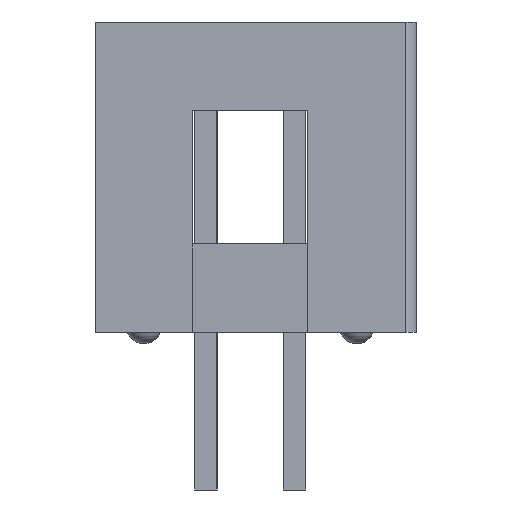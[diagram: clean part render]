
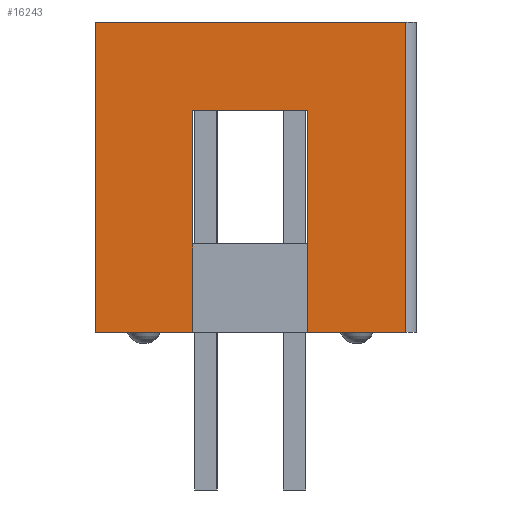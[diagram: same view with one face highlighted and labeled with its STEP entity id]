
A CAD part, left-side view. The second image highlights one B-rep face of the part: STEP entity #16243.
In plain terms, the highlighted planar face has unit normal (-1, 0, 0).
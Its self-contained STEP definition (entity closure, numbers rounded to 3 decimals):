
#147=DIRECTION('',(0.,1.,0.));
#148=VECTOR('',#147,8.89);
#149=CARTESIAN_POINT('',(-44.45,-4.445,0.));
#150=LINE('',#149,#148);
#3517=DIRECTION('',(0.,1.,0.));
#3518=VECTOR('',#3517,2.794);
#3519=CARTESIAN_POINT('',(-44.45,1.651,-8.89));
#3520=LINE('',#3519,#3518);
#3533=DIRECTION('',(0.,1.,0.));
#3534=VECTOR('',#3533,2.794);
#3535=CARTESIAN_POINT('',(-44.45,-4.445,-8.89));
#3536=LINE('',#3535,#3534);
#4993=DIRECTION('',(0.,0.,1.));
#4994=VECTOR('',#4993,6.35);
#4995=CARTESIAN_POINT('',(-44.45,-1.651,-8.89));
#4996=LINE('',#4995,#4994);
#4997=DIRECTION('',(0.,1.,0.));
#4998=VECTOR('',#4997,3.302);
#4999=CARTESIAN_POINT('',(-44.45,-1.651,-2.54));
#5000=LINE('',#4999,#4998);
#5001=DIRECTION('',(0.,0.,1.));
#5002=VECTOR('',#5001,6.35);
#5003=CARTESIAN_POINT('',(-44.45,1.651,-8.89));
#5004=LINE('',#5003,#5002);
#5005=DIRECTION('',(0.,0.,1.));
#5006=VECTOR('',#5005,8.89);
#5007=CARTESIAN_POINT('',(-44.45,4.445,-8.89));
#5008=LINE('',#5007,#5006);
#5017=DIRECTION('',(0.,0.,-1.));
#5018=VECTOR('',#5017,8.89);
#5019=CARTESIAN_POINT('',(-44.45,-4.445,0.));
#5020=LINE('',#5019,#5018);
#7218=CARTESIAN_POINT('',(-44.45,-4.445,0.));
#7219=CARTESIAN_POINT('',(-44.45,4.445,0.));
#7220=VERTEX_POINT('',#7218);
#7221=VERTEX_POINT('',#7219);
#7232=CARTESIAN_POINT('',(-44.45,4.445,-8.89));
#7233=VERTEX_POINT('',#7232);
#7379=CARTESIAN_POINT('',(-44.45,-4.445,-8.89));
#7380=CARTESIAN_POINT('',(-44.45,-1.651,-8.89));
#7381=VERTEX_POINT('',#7379);
#7382=VERTEX_POINT('',#7380);
#7383=CARTESIAN_POINT('',(-44.45,1.651,-8.89));
#7384=VERTEX_POINT('',#7383);
#7421=CARTESIAN_POINT('',(-44.45,-1.651,-2.54));
#7422=CARTESIAN_POINT('',(-44.45,1.651,-2.54));
#7423=VERTEX_POINT('',#7421);
#7424=VERTEX_POINT('',#7422);
#16226=CARTESIAN_POINT('',(-44.45,4.445,0.));
#16227=DIRECTION('',(-1.,0.,0.));
#16228=DIRECTION('',(0.,-1.,0.));
#16229=AXIS2_PLACEMENT_3D('',#16226,#16227,#16228);
#16230=PLANE('',#16229);
#16231=ORIENTED_EDGE('',*,*,#14891,.T.);
#16233=ORIENTED_EDGE('',*,*,#16232,.T.);
#16234=ORIENTED_EDGE('',*,*,#15845,.T.);
#16235=ORIENTED_EDGE('',*,*,#16217,.F.);
#16236=ORIENTED_EDGE('',*,*,#14883,.T.);
#16237=ORIENTED_EDGE('',*,*,#15761,.T.);
#16238=ORIENTED_EDGE('',*,*,#9638,.F.);
#16240=ORIENTED_EDGE('',*,*,#16239,.T.);
#16241=EDGE_LOOP('',(#16231,#16233,#16234,#16235,#16236,#16237,#16238,#16240));
#16242=FACE_OUTER_BOUND('',#16241,.F.);
#16243=ADVANCED_FACE('',(#16242),#16230,.T.);
#9638=EDGE_CURVE('',#7220,#7221,#150,.T.);
#14883=EDGE_CURVE('',#7384,#7233,#3520,.T.);
#14891=EDGE_CURVE('',#7381,#7382,#3536,.T.);
#15761=EDGE_CURVE('',#7233,#7221,#5008,.T.);
#15845=EDGE_CURVE('',#7423,#7424,#5000,.T.);
#16217=EDGE_CURVE('',#7384,#7424,#5004,.T.);
#16232=EDGE_CURVE('',#7382,#7423,#4996,.T.);
#16239=EDGE_CURVE('',#7220,#7381,#5020,.T.);
